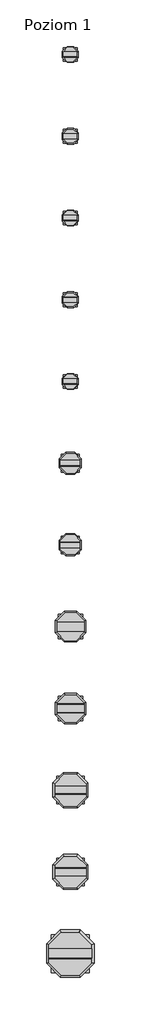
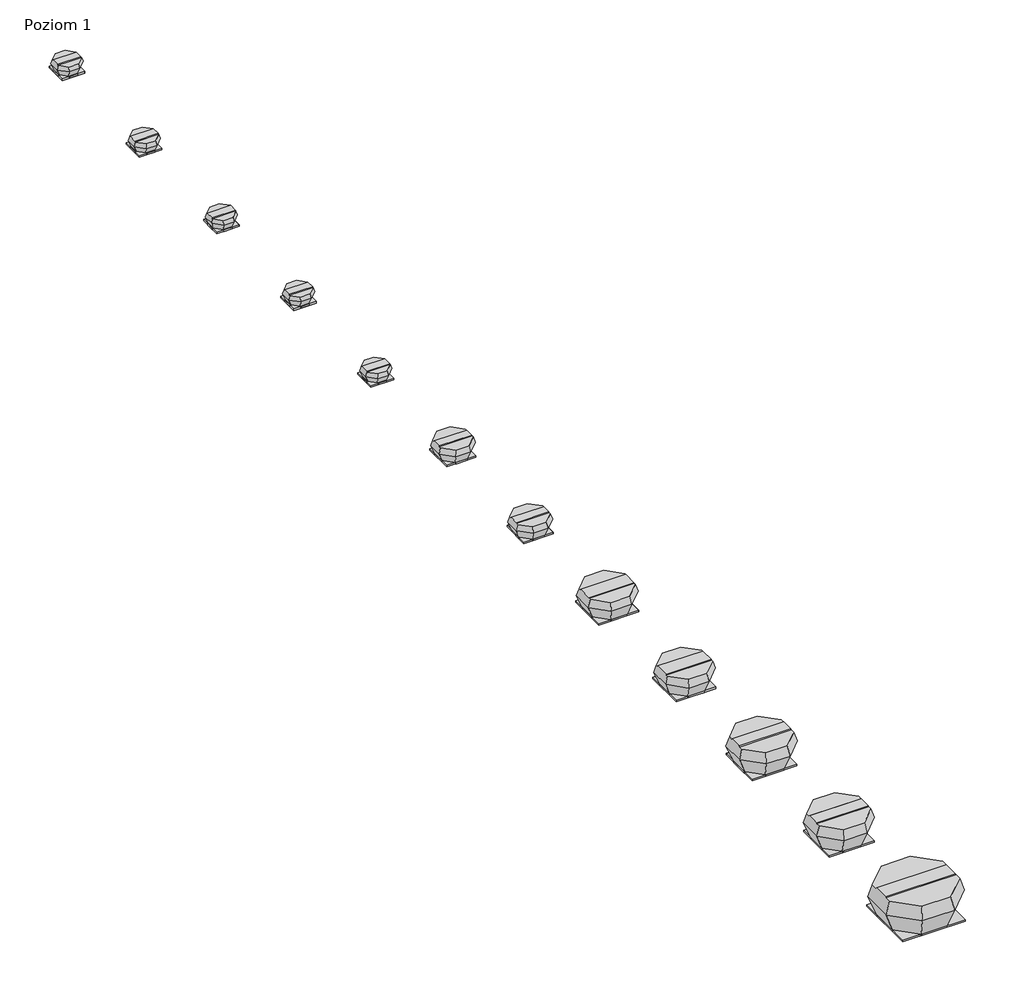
# One storey: 12 duct fittings, 12 unitary equipment elements.
"""IFC4 building model written with IfcOpenShell, lengths in millimetres."""

from ifc_helpers import new_model, si_unit, origin, place, context, project, spatial, transform, mapped, element, save
from components import duct_fitting_180_5dd8c60e, duct_fitting_250_9d40ecca, duct_fitting_400_42e1e227, duct_fitting_560_c8fad201, unitary_equipment_4cf51de1, unitary_equipment_8d29995f, unitary_equipment_568211d7, unitary_equipment_a15a98cf, unitary_equipment_d106bbe1, unitary_equipment_d4655c10, unitary_equipment_35ece669, unitary_equipment_67b0fd10, unitary_equipment_e736b663

model = new_model("IFC4")

# Units and contexts
model_context = context("Model", 3, world=origin())
ifc_project = project(units=[si_unit("LENGTHUNIT", "METRE", prefix="MILLI")], contexts=[model_context])

# Site, building, storey
site = spatial("IfcSite", under=ifc_project)
building = spatial("IfcBuilding", under=site)
storey = spatial("IfcBuildingStorey", under=building, Name="Poziom 1", Elevation=0.0)

# Duct fittings
placement = place(None, origin())
duct_fitting_180_shape = duct_fitting_180_5dd8c60e(model_context)
element("IfcDuctFitting", 1, ObjectType="VE-Zagnieżdżone-Akcesorium-ParaForma-Harmann-DAF-Króciec_Przyłączeniowy : 180", at=placement, inside=storey, context=model_context, shape_type="MappedRepresentation", body=[
    mapped(duct_fitting_180_shape, transform((4582.5, 3000.0, 0.0), x_axis=(1.0, 0.0, 0.0), y_axis=(0.0, 1.0, 0.0), z_axis=(0.0, 0.0, 1.0))),
])
element("IfcDuctFitting", 2, ObjectType="VE-Zagnieżdżone-Akcesorium-ParaForma-Harmann-DAF-Króciec_Przyłączeniowy : 180", at=placement, inside=storey, context=model_context, shape_type="MappedRepresentation", body=[
    mapped(duct_fitting_180_shape, transform((4582.5, 5000.0, 0.0), x_axis=(1.0, 0.0, 0.0), y_axis=(0.0, 1.0, 0.0), z_axis=(0.0, 0.0, 1.0))),
])
element("IfcDuctFitting", 3, ObjectType="VE-Zagnieżdżone-Akcesorium-ParaForma-Harmann-DAF-Króciec_Przyłączeniowy : 180", at=placement, inside=storey, context=model_context, shape_type="MappedRepresentation", body=[
    mapped(duct_fitting_180_shape, transform((4582.5, 1000.0, 0.0), x_axis=(1.0, 0.0, 0.0), y_axis=(0.0, 1.0, 0.0), z_axis=(0.0, 0.0, 1.0))),
])
element("IfcDuctFitting", 4, ObjectType="VE-Zagnieżdżone-Akcesorium-ParaForma-Harmann-DAF-Króciec_Przyłączeniowy : 180", at=placement, inside=storey, context=model_context, shape_type="MappedRepresentation", body=[
    mapped(duct_fitting_180_shape, transform((4582.5, 7000.0, 0.0), x_axis=(1.0, 0.0, 0.0), y_axis=(0.0, 1.0, 0.0), z_axis=(0.0, 0.0, 1.0))),
])
element("IfcDuctFitting", 5, ObjectType="VE-Zagnieżdżone-Akcesorium-ParaForma-Harmann-DAF-Króciec_Przyłączeniowy : 180", at=placement, inside=storey, context=model_context, shape_type="MappedRepresentation", body=[
    mapped(duct_fitting_180_shape, transform((4582.5, 9000.0, 0.0), x_axis=(1.0, 0.0, 0.0), y_axis=(0.0, 1.0, 0.0), z_axis=(0.0, 0.0, 1.0))),
])
duct_fitting_250_shape = duct_fitting_250_9d40ecca(model_context)
element("IfcDuctFitting", 6, ObjectType="VE-Zagnieżdżone-Akcesorium-ParaForma-Harmann-DAF-Króciec_Przyłączeniowy : 250", at=placement, inside=storey, context=model_context, shape_type="MappedRepresentation", body=[
    mapped(duct_fitting_250_shape, transform((4582.5, -1000.0, 0.0), x_axis=(1.0, 0.0, 0.0), y_axis=(0.0, 1.0, 0.0), z_axis=(0.0, 0.0, 1.0))),
])
element("IfcDuctFitting", 7, ObjectType="VE-Zagnieżdżone-Akcesorium-ParaForma-Harmann-DAF-Króciec_Przyłączeniowy : 250", at=placement, inside=storey, context=model_context, shape_type="MappedRepresentation", body=[
    mapped(duct_fitting_250_shape, transform((4582.5, -3000.0, 0.0), x_axis=(1.0, 0.0, 0.0), y_axis=(0.0, 1.0, 0.0), z_axis=(0.0, 0.0, 1.0))),
])
duct_fitting_400_shape = duct_fitting_400_42e1e227(model_context)
element("IfcDuctFitting", 8, ObjectType="VE-Zagnieżdżone-Akcesorium-ParaForma-Harmann-DAF-Króciec_Przyłączeniowy : 400", at=placement, inside=storey, context=model_context, shape_type="MappedRepresentation", body=[
    mapped(duct_fitting_400_shape, transform((4582.5, -5000.0, 0.0), x_axis=(1.0, 0.0, 0.0), y_axis=(0.0, 1.0, 0.0), z_axis=(0.0, 0.0, 1.0))),
])
element("IfcDuctFitting", 9, ObjectType="VE-Zagnieżdżone-Akcesorium-ParaForma-Harmann-DAF-Króciec_Przyłączeniowy : 400", at=placement, inside=storey, context=model_context, shape_type="MappedRepresentation", body=[
    mapped(duct_fitting_400_shape, transform((4582.5, -9000.0, 0.0), x_axis=(1.0, 0.0, 0.0), y_axis=(0.0, 1.0, 0.0), z_axis=(0.0, 0.0, 1.0))),
])
element("IfcDuctFitting", 10, ObjectType="VE-Zagnieżdżone-Akcesorium-ParaForma-Harmann-DAF-Króciec_Przyłączeniowy : 400", at=placement, inside=storey, context=model_context, shape_type="MappedRepresentation", body=[
    mapped(duct_fitting_400_shape, transform((4582.5, -7000.0, 0.0), x_axis=(1.0, 0.0, 0.0), y_axis=(0.0, 1.0, 0.0), z_axis=(0.0, 0.0, 1.0))),
])
element("IfcDuctFitting", 11, ObjectType="VE-Zagnieżdżone-Akcesorium-ParaForma-Harmann-DAF-Króciec_Przyłączeniowy : 400", at=placement, inside=storey, context=model_context, shape_type="MappedRepresentation", body=[
    mapped(duct_fitting_400_shape, transform((4582.5, -11000.0, 0.0), x_axis=(1.0, 0.0, 0.0), y_axis=(0.0, 1.0, 0.0), z_axis=(0.0, 0.0, 1.0))),
])
duct_fitting_560_shape = duct_fitting_560_c8fad201(model_context)
element("IfcDuctFitting", 12, ObjectType="VE-Zagnieżdżone-Akcesorium-ParaForma-Harmann-DAF-Króciec_Przyłączeniowy : 560", at=placement, inside=storey, context=model_context, shape_type="MappedRepresentation", body=[
    mapped(duct_fitting_560_shape, transform((4582.5, -13000.0, 0.0), x_axis=(1.0, 0.0, 0.0), y_axis=(0.0, 1.0, 0.0), z_axis=(0.0, 0.0, 1.0))),
])

# Unitary equipment
unitary_equipment_shape = unitary_equipment_4cf51de1(model_context)
element("IfcUnitaryEquipment", 13, ObjectType="VE-Wentylator-ParaForma-Harmann-VIVO-Wywiewny : 2-190/500S", at=placement, inside=storey, context=model_context, shape_type="MappedRepresentation", body=[
    mapped(unitary_equipment_shape, transform((4582.5, 9000.0, 0.0), x_axis=(1.0, 0.0, 0.0), y_axis=(0.0, 1.0, 0.0), z_axis=(0.0, 0.0, 1.0))),
])
unitary_equipment_2_shape = unitary_equipment_8d29995f(model_context)
element("IfcUnitaryEquipment", 14, ObjectType="VE-Wentylator-ParaForma-Harmann-VIVO-Wywiewny : 4-190/250S", at=placement, inside=storey, context=model_context, shape_type="MappedRepresentation", body=[
    mapped(unitary_equipment_2_shape, transform((4582.5, 5000.0, 0.0), x_axis=(1.0, 0.0, 0.0), y_axis=(0.0, 1.0, 0.0), z_axis=(0.0, 0.0, 1.0))),
])
element("IfcUnitaryEquipment", 15, ObjectType="VE-Wentylator-ParaForma-Harmann-VIVO-Wywiewny : 2-220/900S", at=placement, inside=storey, context=model_context, shape_type="MappedRepresentation", body=[
    mapped(unitary_equipment_2_shape, transform((4582.5, 7000.0, 0.0), x_axis=(1.0, 0.0, 0.0), y_axis=(0.0, 1.0, 0.0), z_axis=(0.0, 0.0, 1.0))),
])
element("IfcUnitaryEquipment", 16, ObjectType="VE-Wentylator-ParaForma-Harmann-VIVO-Wywiewny : 4-220/450S", at=placement, inside=storey, context=model_context, shape_type="MappedRepresentation", body=[
    mapped(unitary_equipment_2_shape, transform((4582.5, 3000.0, 0.0), x_axis=(1.0, 0.0, 0.0), y_axis=(0.0, 1.0, 0.0), z_axis=(0.0, 0.0, 1.0))),
])
element("IfcUnitaryEquipment", 17, ObjectType="VE-Wentylator-ParaForma-Harmann-VIVO-Wywiewny : 4-250/750S", at=placement, inside=storey, context=model_context, shape_type="MappedRepresentation", body=[
    mapped(unitary_equipment_2_shape, transform((4582.5, 1000.0, 0.0), x_axis=(1.0, 0.0, 0.0), y_axis=(0.0, 1.0, 0.0), z_axis=(0.0, 0.0, 1.0))),
])
unitary_equipment_3_shape = unitary_equipment_568211d7(model_context)
element("IfcUnitaryEquipment", 18, ObjectType="VE-Wentylator-ParaForma-Harmann-VIVO-Wywiewny : 4-280/1300S", at=placement, inside=storey, context=model_context, shape_type="MappedRepresentation", body=[
    mapped(unitary_equipment_3_shape, transform((4582.5, -1000.0, 0.0), x_axis=(1.0, 0.0, 0.0), y_axis=(0.0, 1.0, 0.0), z_axis=(0.0, 0.0, 1.0))),
])
unitary_equipment_4_shape = unitary_equipment_a15a98cf(model_context)
element("IfcUnitaryEquipment", 19, ObjectType="VE-Wentylator-ParaForma-Harmann-VIVO-Wywiewny : 4-315/1900S", at=placement, inside=storey, context=model_context, shape_type="MappedRepresentation", body=[
    mapped(unitary_equipment_4_shape, transform((4582.5, -3000.0, 0.0), x_axis=(1.0, 0.0, 0.0), y_axis=(0.0, 1.0, 0.0), z_axis=(0.0, 0.0, 1.0))),
])
unitary_equipment_5_shape = unitary_equipment_d106bbe1(model_context)
element("IfcUnitaryEquipment", 20, ObjectType="VE-Wentylator-ParaForma-Harmann-VIVO-Wywiewny : 4-355/3000S", at=placement, inside=storey, context=model_context, shape_type="MappedRepresentation", body=[
    mapped(unitary_equipment_5_shape, transform((4582.5, -5000.0, 0.0), x_axis=(1.0, 0.0, 0.0), y_axis=(0.0, 1.0, 0.0), z_axis=(0.0, 0.0, 1.0))),
])
unitary_equipment_6_shape = unitary_equipment_d4655c10(model_context)
element("IfcUnitaryEquipment", 21, ObjectType="VE-Wentylator-ParaForma-Harmann-VIVO-Wywiewny : 4-400/4300S", at=placement, inside=storey, context=model_context, shape_type="MappedRepresentation", body=[
    mapped(unitary_equipment_6_shape, transform((4582.5, -7000.0, 0.0), x_axis=(1.0, 0.0, 0.0), y_axis=(0.0, 1.0, 0.0), z_axis=(0.0, 0.0, 1.0))),
])
unitary_equipment_7_shape = unitary_equipment_35ece669(model_context)
element("IfcUnitaryEquipment", 22, ObjectType="VE-Wentylator-ParaForma-Harmann-VIVO-Wywiewny : 4-450/5800T", at=placement, inside=storey, context=model_context, shape_type="MappedRepresentation", body=[
    mapped(unitary_equipment_7_shape, transform((4582.5, -9000.0, 0.0), x_axis=(1.0, 0.0, 0.0), y_axis=(0.0, 1.0, 0.0), z_axis=(0.0, 0.0, 1.0))),
])
unitary_equipment_8_shape = unitary_equipment_67b0fd10(model_context)
element("IfcUnitaryEquipment", 23, ObjectType="VE-Wentylator-ParaForma-Harmann-VIVO-Wywiewny : 4-500/9200T", at=placement, inside=storey, context=model_context, shape_type="MappedRepresentation", body=[
    mapped(unitary_equipment_8_shape, transform((4582.5, -11000.0, 0.0), x_axis=(1.0, 0.0, 0.0), y_axis=(0.0, 1.0, 0.0), z_axis=(0.0, 0.0, 1.0))),
])
unitary_equipment_9_shape = unitary_equipment_e736b663(model_context)
element("IfcUnitaryEquipment", 24, ObjectType="VE-Wentylator-ParaForma-Harmann-VIVO-Wywiewny : 4-560/11900T", at=placement, inside=storey, context=model_context, shape_type="MappedRepresentation", body=[
    mapped(unitary_equipment_9_shape, transform((4582.5, -13000.0, 0.0), x_axis=(1.0, 0.0, 0.0), y_axis=(0.0, 1.0, 0.0), z_axis=(0.0, 0.0, 1.0))),
])

save(model, "model.ifc")
